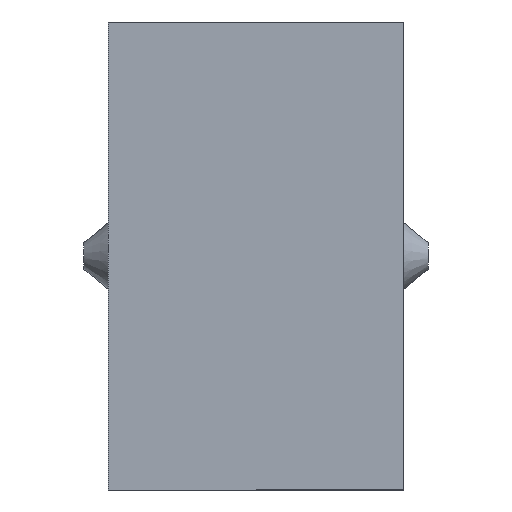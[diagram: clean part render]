
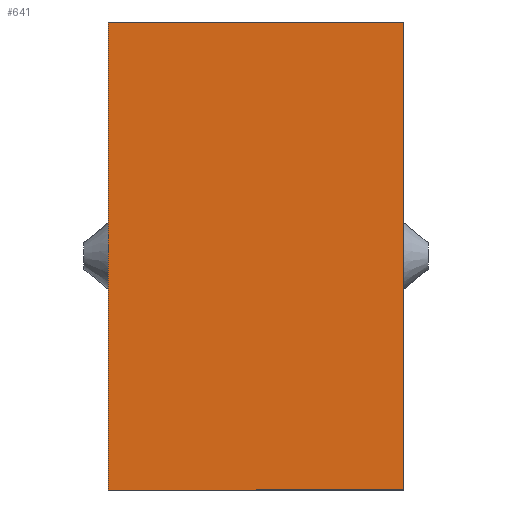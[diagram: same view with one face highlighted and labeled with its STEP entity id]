
A CAD part, left-side view. The second image highlights one B-rep face of the part: STEP entity #641.
In plain terms, the highlighted planar face has unit normal (-1, 0, 0).
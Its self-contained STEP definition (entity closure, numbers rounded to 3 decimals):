
#6 = EDGE_LOOP ( 'NONE', ( #81, #102, #101, #83 ) ) ;
#81 = ORIENTED_EDGE ( 'NONE', *, *, #255, .F. ) ;
#83 = ORIENTED_EDGE ( 'NONE', *, *, #279, .F. ) ;
#101 = ORIENTED_EDGE ( 'NONE', *, *, #264, .T. ) ;
#102 = ORIENTED_EDGE ( 'NONE', *, *, #282, .T. ) ;
#161 = LINE ( 'NONE', #533, #162 ) ;
#162 = VECTOR ( 'NONE', #534, 1000. ) ;
#175 = LINE ( 'NONE', #559, #176 ) ;
#176 = VECTOR ( 'NONE', #560, 1000. ) ;
#198 = LINE ( 'NONE', #612, #199 ) ;
#199 = VECTOR ( 'NONE', #613, 1000. ) ;
#204 = LINE ( 'NONE', #624, #205 ) ;
#205 = VECTOR ( 'NONE', #625, 1000. ) ;
#219 = FACE_OUTER_BOUND ( 'NONE', #6, .T. ) ;
#255 = EDGE_CURVE ( 'NONE', #459, #460, #161, .T. ) ;
#264 = EDGE_CURVE ( 'NONE', #476, #469, #175, .T. ) ;
#279 = EDGE_CURVE ( 'NONE', #460, #469, #198, .T. ) ;
#282 = EDGE_CURVE ( 'NONE', #459, #476, #204, .T. ) ;
#297 = AXIS2_PLACEMENT_3D ( 'NONE', #362, #363, #365 ) ;
#361 = PLANE ( 'NONE',  #297 ) ;
#362 = CARTESIAN_POINT ( 'NONE',  ( 0., 6., -19.483 ) ) ;
#363 = DIRECTION ( 'NONE',  ( 1., 0., 0. ) ) ;
#365 = DIRECTION ( 'NONE',  ( 0., 0., -1. ) ) ;
#459 = VERTEX_POINT ( 'NONE', #621 ) ;
#460 = VERTEX_POINT ( 'NONE', #622 ) ;
#469 = VERTEX_POINT ( 'NONE', #627 ) ;
#476 = VERTEX_POINT ( 'NONE', #599 ) ;
#533 = CARTESIAN_POINT ( 'NONE',  ( 0., 14., -19.483 ) ) ;
#534 = DIRECTION ( 'NONE',  ( 0., 0., 1. ) ) ;
#559 = CARTESIAN_POINT ( 'NONE',  ( 0., 2., -19.483 ) ) ;
#560 = DIRECTION ( 'NONE',  ( 0., 0., 1. ) ) ;
#599 = CARTESIAN_POINT ( 'NONE',  ( 0., 2., -9.517 ) ) ;
#612 = CARTESIAN_POINT ( 'NONE',  ( 0., 6., 9.517 ) ) ;
#613 = DIRECTION ( 'NONE',  ( 0., -1., 0. ) ) ;
#621 = CARTESIAN_POINT ( 'NONE',  ( 0., 14., -9.517 ) ) ;
#622 = CARTESIAN_POINT ( 'NONE',  ( 0., 14., 9.517 ) ) ;
#624 = CARTESIAN_POINT ( 'NONE',  ( 0., 14., -9.517 ) ) ;
#625 = DIRECTION ( 'NONE',  ( 0., -1., 0. ) ) ;
#627 = CARTESIAN_POINT ( 'NONE',  ( 0., 2., 9.517 ) ) ;
#641 = ADVANCED_FACE ( 'NONE', ( #219 ), #361, .F. ) ;
